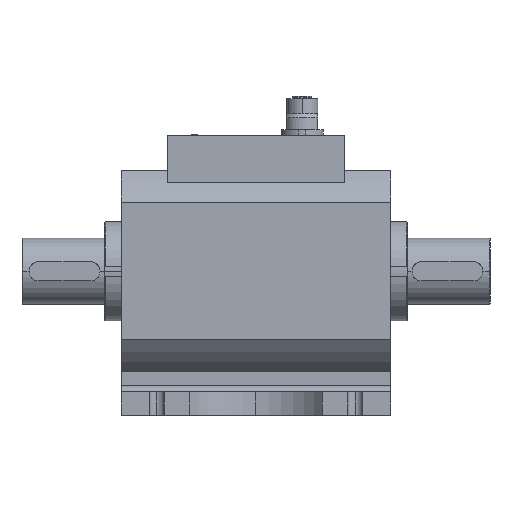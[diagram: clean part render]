
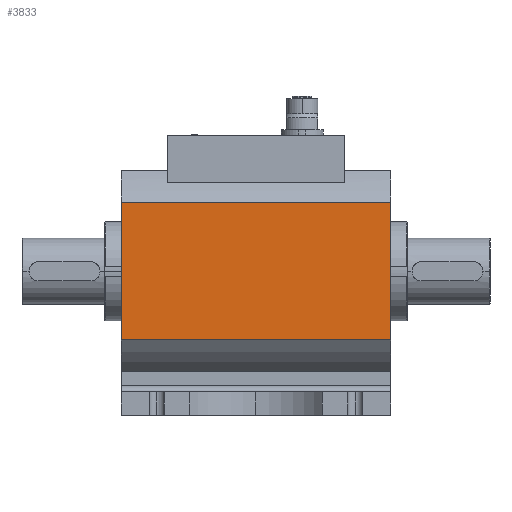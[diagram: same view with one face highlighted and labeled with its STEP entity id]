
A CAD part, top view. The second image highlights one B-rep face of the part: STEP entity #3833.
In plain terms, the highlighted planar face has unit normal (0, 0, 1).
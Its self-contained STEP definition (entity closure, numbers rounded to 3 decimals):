
#403 = EDGE_CURVE ( 'NONE', #9999, #8685, #16026, .T. ) ;
#1734 = ORIENTED_EDGE ( 'NONE', *, *, #2653, .T. ) ;
#2653 = EDGE_CURVE ( 'NONE', #3334, #12275, #10414, .T. ) ;
#3334 = VERTEX_POINT ( 'NONE', #5819 ) ;
#3590 = FACE_OUTER_BOUND ( 'NONE', #15677, .T. ) ;
#3833 = ADVANCED_FACE ( 'NONE', ( #3590 ), #19241, .F. ) ;
#4006 = DIRECTION ( 'NONE',  ( 0., -1., 0. ) ) ;
#4501 = VECTOR ( 'NONE', #4006, 1000. ) ;
#4708 = LINE ( 'NONE', #25936, #4501 ) ;
#4776 = AXIS2_PLACEMENT_3D ( 'NONE', #30231, #30577, #24811 ) ;
#5819 = CARTESIAN_POINT ( 'NONE',  ( 57., 29.086, 42.5 ) ) ;
#7233 = CARTESIAN_POINT ( 'NONE',  ( 57., -29.086, 42.5 ) ) ;
#8623 = EDGE_CURVE ( 'NONE', #3334, #9999, #11211, .T. ) ;
#8685 = VERTEX_POINT ( 'NONE', #22534 ) ;
#8792 = ORIENTED_EDGE ( 'NONE', *, *, #403, .F. ) ;
#9201 = ORIENTED_EDGE ( 'NONE', *, *, #12720, .T. ) ;
#9999 = VERTEX_POINT ( 'NONE', #11049 ) ;
#10414 = LINE ( 'NONE', #21382, #23300 ) ;
#10497 = CARTESIAN_POINT ( 'NONE',  ( -57., 29.086, 42.5 ) ) ;
#11049 = CARTESIAN_POINT ( 'NONE',  ( 57., -29.086, 42.5 ) ) ;
#11211 = LINE ( 'NONE', #30641, #25960 ) ;
#12275 = VERTEX_POINT ( 'NONE', #10497 ) ;
#12720 = EDGE_CURVE ( 'NONE', #12275, #8685, #4708, .T. ) ;
#13155 = DIRECTION ( 'NONE',  ( -1., 0., 0. ) ) ;
#15677 = EDGE_LOOP ( 'NONE', ( #9201, #8792, #23462, #1734 ) ) ;
#16026 = LINE ( 'NONE', #7233, #32275 ) ;
#19241 = PLANE ( 'NONE',  #4776 ) ;
#21382 = CARTESIAN_POINT ( 'NONE',  ( 57., 29.086, 42.5 ) ) ;
#22534 = CARTESIAN_POINT ( 'NONE',  ( -57., -29.086, 42.5 ) ) ;
#23300 = VECTOR ( 'NONE', #32033, 1000. ) ;
#23462 = ORIENTED_EDGE ( 'NONE', *, *, #8623, .F. ) ;
#24811 = DIRECTION ( 'NONE',  ( 0., 1., 0. ) ) ;
#25936 = CARTESIAN_POINT ( 'NONE',  ( -57., 29.086, 42.5 ) ) ;
#25960 = VECTOR ( 'NONE', #33702, 1000. ) ;
#30231 = CARTESIAN_POINT ( 'NONE',  ( 57., 29.086, 42.5 ) ) ;
#30577 = DIRECTION ( 'NONE',  ( 0., 0., -1. ) ) ;
#30641 = CARTESIAN_POINT ( 'NONE',  ( 57., 29.086, 42.5 ) ) ;
#32033 = DIRECTION ( 'NONE',  ( -1., 0., 0. ) ) ;
#32275 = VECTOR ( 'NONE', #13155, 1000. ) ;
#33702 = DIRECTION ( 'NONE',  ( 0., -1., 0. ) ) ;
